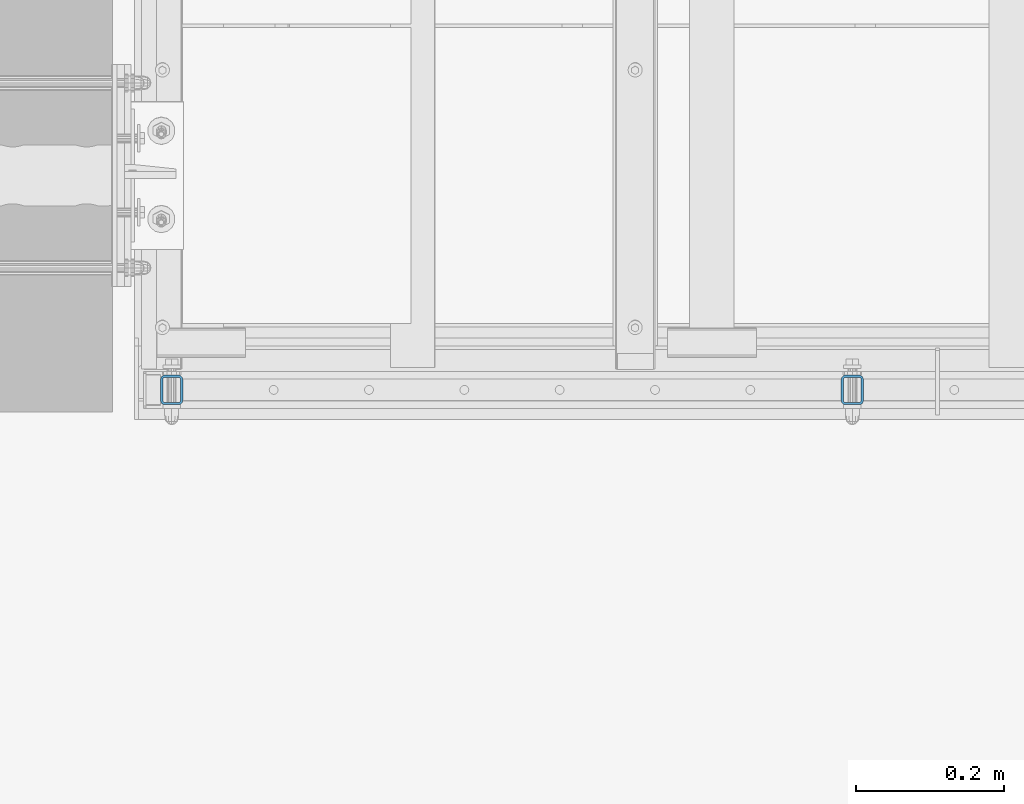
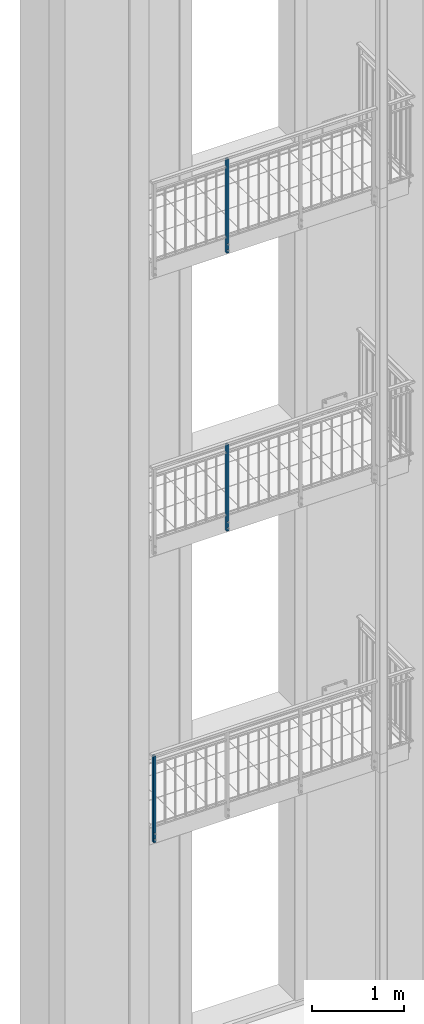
# One storey, part 2 of 162: 3 columns, 22 openings.
"""IFC2X3 building model written with IfcOpenShell, lengths in millimetres."""

from ifc_helpers import new_model, entity, si_unit, converted_unit, frame, frame_2d, origin, origin_with_axes, origin_2d, origin_2d_with_axis, place, context, project, spatial, hollow_rectangle, circle, extrude, material, element, save


model = new_model("IFC2X3")

# Units and contexts
model_context = context("Model", 3, precision=1e-09, world=origin_with_axes())
ifc_project = project(units=[si_unit("LENGTHUNIT", "METRE", prefix="MILLI"), si_unit("AREAUNIT", "SQUARE_METRE"), si_unit("VOLUMEUNIT", "CUBIC_METRE"), converted_unit("PLANEANGLEUNIT", "DEGREE", entity("IfcPlaneAngleMeasure", 0.01745329), si_unit("PLANEANGLEUNIT", "RADIAN"), dimensions=[0, 0, 0, 0, 0, 0, 0])], contexts=[model_context])

# Site, building, storey
site_placement = place(None, origin_with_axes())
site = spatial("IfcSite", under=ifc_project, at=site_placement, Name="Hermannstra?e 1a, 60318 Frankfurt", CompositionType="ELEMENT")
building_placement = place(site_placement, origin_with_axes())
building = spatial("IfcBuilding", under=site, at=building_placement, Name="Struktur 1", CompositionType="ELEMENT")
storey_placement = place(building_placement, origin_with_axes())
storey = spatial("IfcBuildingStorey", under=building, at=storey_placement, Name="Default Storey", CompositionType="ELEMENT", Elevation=0.0)

# Column, openings
ifc_material = material(Name="S235JR")
column_1_placement = place(None, frame((3523.30936482, 1515.609373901, 7600.0), z_axis=(0.0, 0.0, -1.0), x_axis=(1.0, 0.0, 0.0)))
column_1 = element("IfcColumn", 1, at=column_1_placement, inside=storey, material=ifc_material, Name="-", ObjectType="-", context=model_context, shape_type="SweptSolid", body=[
    extrude(hollow_rectangle(XDim=30.0, YDim=40.0, WallThickness=3.0, InnerFilletRadius=3.0, OuterFilletRadius=6.0, at=origin_2d()), origin(), (0.0, 0.0, -1.0), 1150.0),
])
opening_1_placement = place(column_1_placement, frame((11.5, 0.0, -240.0), z_axis=(1.0, 0.0, 0.0), x_axis=(0.0, -1.0, 0.0)))
element("IfcOpeningElement", 2, at=opening_1_placement, cuts=column_1, ObjectType="Opening", context=model_context, shape_type="SweptSolid", body=[
    extrude(circle(Radius=5.001, at=frame_2d((0.0, -30.0), x_axis=(1.0, 0.0))), origin(), (0.0, 0.0, 1.0), 4.0),
])
opening_2_placement = place(column_1_placement, frame((11.5, 0.0, -1040.0), z_axis=(1.0, 0.0, 0.0), x_axis=(0.0, -1.0, 0.0)))
element("IfcOpeningElement", 3, at=opening_2_placement, cuts=column_1, ObjectType="Opening", context=model_context, shape_type="SweptSolid", body=[
    extrude(circle(Radius=5.001, at=origin_2d_with_axis()), origin(), (0.0, 0.0, 1.0), 4.0),
])
opening_3_placement = place(column_1_placement, frame((-11.5, 5.001, -1040.0), z_axis=(1.0, 0.0, 0.0), x_axis=(0.0, 1.0, 0.0)))
element("IfcOpeningElement", 4, at=opening_3_placement, cuts=column_1, ObjectType="Opening", context=model_context, shape_type="SweptSolid", body=[
    extrude(circle(Radius=5.001, at=frame_2d((-5.001, 0.0), x_axis=(1.0, 0.0))), origin(), (0.0, 0.0, -1.0), 4.0),
])
opening_4_placement = place(column_1_placement, frame((-11.5, 5.001, -210.0), z_axis=(1.0, 0.0, 0.0), x_axis=(0.0, 1.0, 0.0)))
element("IfcOpeningElement", 5, at=opening_4_placement, cuts=column_1, ObjectType="Opening", context=model_context, shape_type="SweptSolid", body=[
    extrude(circle(Radius=5.001, at=frame_2d((-5.001, 0.0), x_axis=(1.0, 0.0))), origin(), (0.0, 0.0, -1.0), 4.0),
])
opening_5_placement = place(column_1_placement, frame((-8.001, -16.5, -120.0), z_axis=(0.0, 1.0, 0.0), x_axis=(-1.0, 0.0, 0.0)))
element("IfcOpeningElement", 6, at=opening_5_placement, cuts=column_1, ObjectType="Opening", context=model_context, shape_type="SweptSolid", body=[
    extrude(circle(Radius=8.001, at=frame_2d((-8.001, 0.0), x_axis=(1.0, 0.0))), origin(), (0.0, 0.0, -1.0), 4.0),
])
opening_6_placement = place(column_1_placement, frame((-8.001, -16.5, -40.0), z_axis=(0.0, 1.0, 0.0), x_axis=(-1.0, 0.0, 0.0)))
element("IfcOpeningElement", 7, at=opening_6_placement, cuts=column_1, ObjectType="Opening", context=model_context, shape_type="SweptSolid", body=[
    extrude(circle(Radius=8.001, at=frame_2d((-8.001, 0.0), x_axis=(1.0, 0.0))), origin(), (0.0, 0.0, -1.0), 4.0),
])
opening_7_placement = place(column_1_placement, frame((-8.001, 20.5, -120.0), z_axis=(0.0, 1.0, 0.0), x_axis=(-1.0, 0.0, 0.0)))
element("IfcOpeningElement", 8, at=opening_7_placement, cuts=column_1, ObjectType="Opening", context=model_context, shape_type="SweptSolid", body=[
    extrude(circle(Radius=8.001, at=frame_2d((-8.001, 0.0), x_axis=(1.0, 0.0))), origin(), (0.0, 0.0, -1.0), 4.0),
])
opening_8_placement = place(column_1_placement, frame((-8.001, 20.5, -40.0), z_axis=(0.0, 1.0, 0.0), x_axis=(-1.0, 0.0, 0.0)))
element("IfcOpeningElement", 9, at=opening_8_placement, cuts=column_1, ObjectType="Opening", context=model_context, shape_type="SweptSolid", body=[
    extrude(circle(Radius=8.001, at=frame_2d((-8.001, 0.0), x_axis=(1.0, 0.0))), origin(), (0.0, 0.0, -1.0), 4.0),
])

column_2_placement = place(None, frame((3523.30936482, 1515.609373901, 11299.999), z_axis=(0.0, 0.0, -1.0), x_axis=(1.0, 0.0, 0.0)))
column_2 = element("IfcColumn", 10, at=column_2_placement, inside=storey, material=ifc_material, Name="-", ObjectType="-", context=model_context, shape_type="SweptSolid", body=[
    extrude(hollow_rectangle(XDim=30.0, YDim=40.0, WallThickness=3.0, InnerFilletRadius=3.0, OuterFilletRadius=6.0, at=origin_2d()), origin(), (0.0, 0.0, -1.0), 1250.0),
])
opening_9_placement = place(column_2_placement, frame((11.5, 0.0, -240.0), z_axis=(1.0, 0.0, 0.0), x_axis=(0.0, -1.0, 0.0)))
element("IfcOpeningElement", 11, at=opening_9_placement, cuts=column_2, ObjectType="Opening", context=model_context, shape_type="SweptSolid", body=[
    extrude(circle(Radius=5.001, at=frame_2d((0.0, -30.0), x_axis=(1.0, 0.0))), origin(), (0.0, 0.0, 1.0), 4.0),
])
opening_10_placement = place(column_2_placement, frame((11.5, 0.0, -1040.0), z_axis=(1.0, 0.0, 0.0), x_axis=(0.0, -1.0, 0.0)))
element("IfcOpeningElement", 12, at=opening_10_placement, cuts=column_2, ObjectType="Opening", context=model_context, shape_type="SweptSolid", body=[
    extrude(circle(Radius=5.001, at=frame_2d((0.0, 100.0), x_axis=(1.0, 0.0))), origin(), (0.0, 0.0, 1.0), 4.0),
])
opening_11_placement = place(column_2_placement, frame((-11.5, 5.001, -1140.0), z_axis=(1.0, 0.0, 0.0), x_axis=(0.0, 1.0, 0.0)))
element("IfcOpeningElement", 13, at=opening_11_placement, cuts=column_2, ObjectType="Opening", context=model_context, shape_type="SweptSolid", body=[
    extrude(circle(Radius=5.001, at=frame_2d((-5.001, 0.0), x_axis=(1.0, 0.0))), origin(), (0.0, 0.0, -1.0), 4.0),
])
opening_12_placement = place(column_2_placement, frame((-11.5, 5.001, -210.0), z_axis=(1.0, 0.0, 0.0), x_axis=(0.0, 1.0, 0.0)))
element("IfcOpeningElement", 14, at=opening_12_placement, cuts=column_2, ObjectType="Opening", context=model_context, shape_type="SweptSolid", body=[
    extrude(circle(Radius=5.001, at=frame_2d((-5.001, 0.0), x_axis=(1.0, 0.0))), origin(), (0.0, 0.0, -1.0), 4.0),
])
opening_13_placement = place(column_2_placement, frame((-8.001, -16.5, -120.0), z_axis=(0.0, 1.0, 0.0), x_axis=(-1.0, 0.0, 0.0)))
element("IfcOpeningElement", 15, at=opening_13_placement, cuts=column_2, ObjectType="Opening", context=model_context, shape_type="SweptSolid", body=[
    extrude(circle(Radius=8.001, at=frame_2d((-8.001, 0.0), x_axis=(1.0, 0.0))), origin(), (0.0, 0.0, -1.0), 4.0),
])
opening_14_placement = place(column_2_placement, frame((-8.001, -16.5, -40.0), z_axis=(0.0, 1.0, 0.0), x_axis=(-1.0, 0.0, 0.0)))
element("IfcOpeningElement", 16, at=opening_14_placement, cuts=column_2, ObjectType="Opening", context=model_context, shape_type="SweptSolid", body=[
    extrude(circle(Radius=8.001, at=frame_2d((-8.001, 0.0), x_axis=(1.0, 0.0))), origin(), (0.0, 0.0, -1.0), 4.0),
])
opening_15_placement = place(column_2_placement, frame((-8.001, 20.5, -120.0), z_axis=(0.0, 1.0, 0.0), x_axis=(-1.0, 0.0, 0.0)))
element("IfcOpeningElement", 17, at=opening_15_placement, cuts=column_2, ObjectType="Opening", context=model_context, shape_type="SweptSolid", body=[
    extrude(circle(Radius=8.001, at=frame_2d((-8.001, 0.0), x_axis=(1.0, 0.0))), origin(), (0.0, 0.0, -1.0), 4.0),
])
opening_16_placement = place(column_2_placement, frame((-8.001, 20.5, -40.0), z_axis=(0.0, 1.0, 0.0), x_axis=(-1.0, 0.0, 0.0)))
element("IfcOpeningElement", 18, at=opening_16_placement, cuts=column_2, ObjectType="Opening", context=model_context, shape_type="SweptSolid", body=[
    extrude(circle(Radius=8.001, at=frame_2d((-8.001, 0.0), x_axis=(1.0, 0.0))), origin(), (0.0, 0.0, -1.0), 4.0),
])

column_3_placement = place(None, frame((2603.30936482, 1515.609373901, 3775.0), z_axis=(0.0, 0.0, -1.0), x_axis=(1.0, 0.0, 0.0)))
column_3 = element("IfcColumn", 19, at=column_3_placement, inside=storey, material=ifc_material, Name="-", ObjectType="-", context=model_context, shape_type="SweptSolid", body=[
    extrude(hollow_rectangle(XDim=30.0, YDim=40.0, WallThickness=3.0, InnerFilletRadius=3.0, OuterFilletRadius=6.0, at=origin_2d()), origin(), (0.0, 0.0, -1.0), 1150.0),
])
opening_17_placement = place(column_3_placement, frame((11.5, 0.0, -1040.0), z_axis=(1.0, 0.0, 0.0), x_axis=(0.0, -1.0, 0.0)))
element("IfcOpeningElement", 20, at=opening_17_placement, cuts=column_3, ObjectType="Opening", context=model_context, shape_type="SweptSolid", body=[
    extrude(circle(Radius=5.001, at=origin_2d_with_axis()), origin(), (0.0, 0.0, 1.0), 4.0),
])
opening_18_placement = place(column_3_placement, frame((11.5, 0.0, -240.0), z_axis=(1.0, 0.0, 0.0), x_axis=(0.0, -1.0, 0.0)))
element("IfcOpeningElement", 21, at=opening_18_placement, cuts=column_3, ObjectType="Opening", context=model_context, shape_type="SweptSolid", body=[
    extrude(circle(Radius=5.001, at=frame_2d((0.0, -30.0), x_axis=(1.0, 0.0))), origin(), (0.0, 0.0, 1.0), 4.0),
])
opening_19_placement = place(column_3_placement, frame((-8.001, -16.5, -120.0), z_axis=(0.0, 1.0, 0.0), x_axis=(-1.0, 0.0, 0.0)))
element("IfcOpeningElement", 22, at=opening_19_placement, cuts=column_3, ObjectType="Opening", context=model_context, shape_type="SweptSolid", body=[
    extrude(circle(Radius=8.001, at=frame_2d((-8.001, 0.0), x_axis=(1.0, 0.0))), origin(), (0.0, 0.0, -1.0), 4.0),
])
opening_20_placement = place(column_3_placement, frame((-8.001, -16.5, -40.0), z_axis=(0.0, 1.0, 0.0), x_axis=(-1.0, 0.0, 0.0)))
element("IfcOpeningElement", 23, at=opening_20_placement, cuts=column_3, ObjectType="Opening", context=model_context, shape_type="SweptSolid", body=[
    extrude(circle(Radius=8.001, at=frame_2d((-8.001, 0.0), x_axis=(1.0, 0.0))), origin(), (0.0, 0.0, -1.0), 4.0),
])
opening_21_placement = place(column_3_placement, frame((-8.001, 20.5, -120.0), z_axis=(0.0, 1.0, 0.0), x_axis=(-1.0, 0.0, 0.0)))
element("IfcOpeningElement", 24, at=opening_21_placement, cuts=column_3, ObjectType="Opening", context=model_context, shape_type="SweptSolid", body=[
    extrude(circle(Radius=8.001, at=frame_2d((-8.001, 0.0), x_axis=(1.0, 0.0))), origin(), (0.0, 0.0, -1.0), 4.0),
])
opening_22_placement = place(column_3_placement, frame((-8.001, 20.5, -40.0), z_axis=(0.0, 1.0, 0.0), x_axis=(-1.0, 0.0, 0.0)))
element("IfcOpeningElement", 25, at=opening_22_placement, cuts=column_3, ObjectType="Opening", context=model_context, shape_type="SweptSolid", body=[
    extrude(circle(Radius=8.001, at=frame_2d((-8.001, 0.0), x_axis=(1.0, 0.0))), origin(), (0.0, 0.0, -1.0), 4.0),
])

save(model, "model.ifc")
